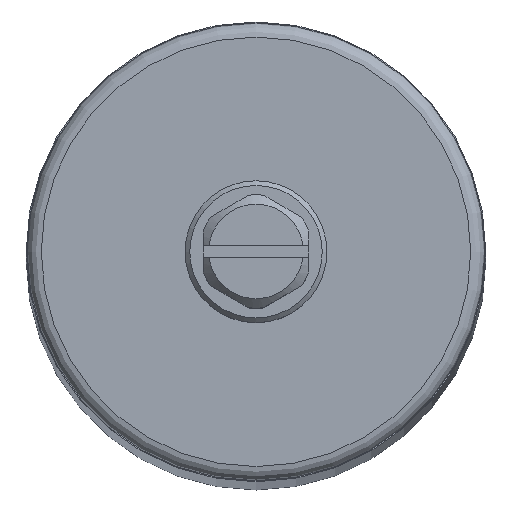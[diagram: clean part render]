
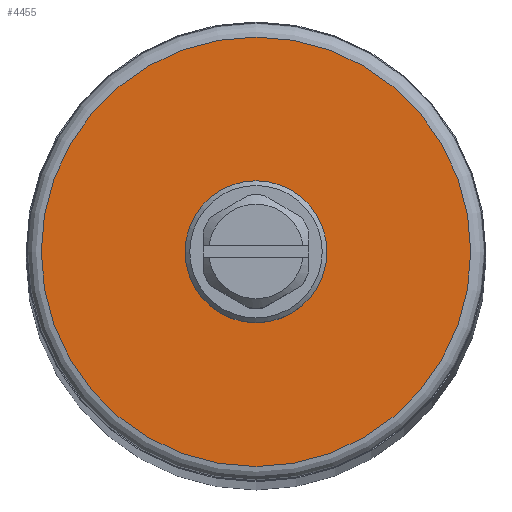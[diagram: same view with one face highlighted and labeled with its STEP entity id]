
A CAD part, top view. The second image highlights one B-rep face of the part: STEP entity #4455.
In plain terms, the highlighted planar face has unit normal (0, 0, 1).
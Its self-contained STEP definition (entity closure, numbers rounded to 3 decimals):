
#1006=PLANE('',#4749);
#1187=FACE_BOUND('',#1556,.T.);
#1188=FACE_BOUND('',#1557,.T.);
#1556=EDGE_LOOP('',(#3204));
#1557=EDGE_LOOP('',(#3205));
#1860=CIRCLE('',#4742,7.5);
#1862=CIRCLE('',#4746,22.7);
#2012=VERTEX_POINT('',#6422);
#2014=VERTEX_POINT('',#6428);
#2471=EDGE_CURVE('',#2012,#2012,#1860,.T.);
#2473=EDGE_CURVE('',#2014,#2014,#1862,.T.);
#3204=ORIENTED_EDGE('',*,*,#2471,.F.);
#3205=ORIENTED_EDGE('',*,*,#2473,.F.);
#4455=ADVANCED_FACE('',(#1187,#1188),#1006,.T.);
#4742=AXIS2_PLACEMENT_3D('',#6423,#5229,#5230);
#4746=AXIS2_PLACEMENT_3D('',#6429,#5237,#5238);
#4749=AXIS2_PLACEMENT_3D('',#6433,#5243,#5244);
#5229=DIRECTION('center_axis',(0.,0.,1.));
#5230=DIRECTION('ref_axis',(1.,0.,0.));
#5237=DIRECTION('center_axis',(0.,0.,-1.));
#5238=DIRECTION('ref_axis',(0.,1.,0.));
#5243=DIRECTION('center_axis',(0.,0.,1.));
#5244=DIRECTION('ref_axis',(1.,0.,0.));
#6422=CARTESIAN_POINT('',(0.,-7.5,3.));
#6423=CARTESIAN_POINT('Origin',(0.,0.,3.));
#6428=CARTESIAN_POINT('',(0.,-22.7,3.));
#6429=CARTESIAN_POINT('Origin',(0.,0.,3.));
#6433=CARTESIAN_POINT('Origin',(0.,-7.5,3.));
